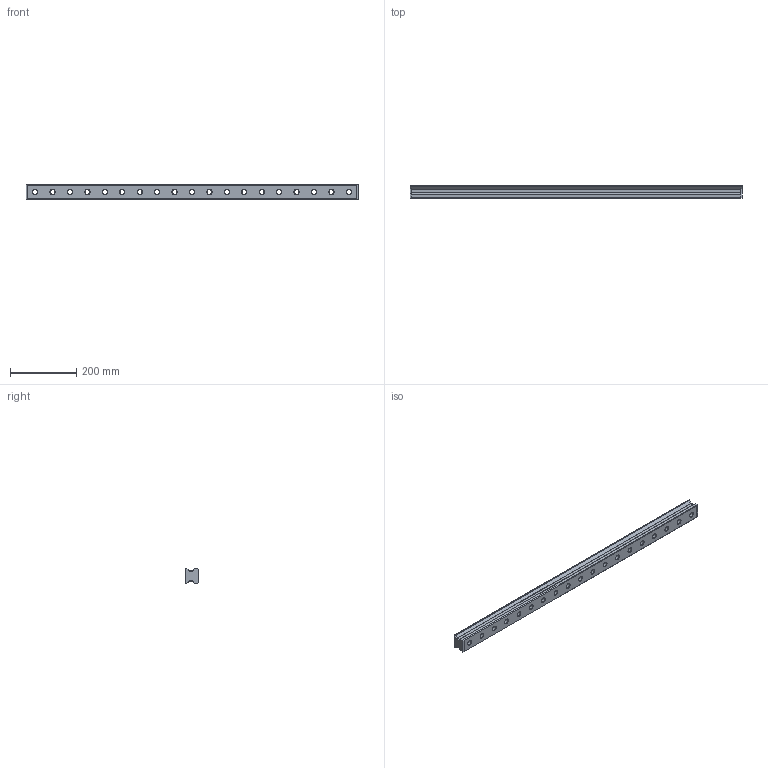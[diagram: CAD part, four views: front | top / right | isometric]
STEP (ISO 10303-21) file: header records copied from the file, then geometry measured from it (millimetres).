
FILE_DESCRIPTION(/* description */ ('STEP AP214'),/* implementation_level */ '2;1');
FILE_NAME(/* name */ 'ERG45P6-1000LA______CAD_NO_(27.5)',/* time_stamp */ '2026-05-18T11:22:15+02:00',/* author */ ('License CC BY-ND 4.0'),/* organization */ ('CADENAS'),/* preprocessor_version */ 'ST-DEVELOPER v20',/* originating_system */ 'PARTsolutions',/* authorisation */ ' ');
FILE_SCHEMA (('AUTOMOTIVE_DESIGN {1 0 10303 214 3 1 1}'));
Length unit declared in the file: millimetre
Products named in the file (2): ERG45P6-1000LA______CAD_NO_(27.5); ERG45P6-1000LA(27.5)_rail
Assembly tree (1 placements, depth 2):
  ERG45P6-1000LA______CAD_NO_(27.5)
    ERG45P6-1000LA(27.5)_rail
Bounding box: 1000 x 38.6 x 45 mm (x, y, z)
Volume: 1320180.6 mm3; surface area: 210517.4 mm2
Topology: 1 solids, 1 shells, 167 faces, 376 edges, 230 vertices
Faces by surface type: plane 77, cylinder 52, cone 38
Full cylindrical faces by diameter (mm): 14 x19, 20 x19
Entity records: 4369 total; most frequent: DIRECTION 788, CARTESIAN_POINT 699, ORIENTED_EDGE 600, AXIS2_PLACEMENT_3D 319, EDGE_CURVE 300, EDGE_LOOP 300, FACE_BOUND 300, VERTEX_POINT 230
